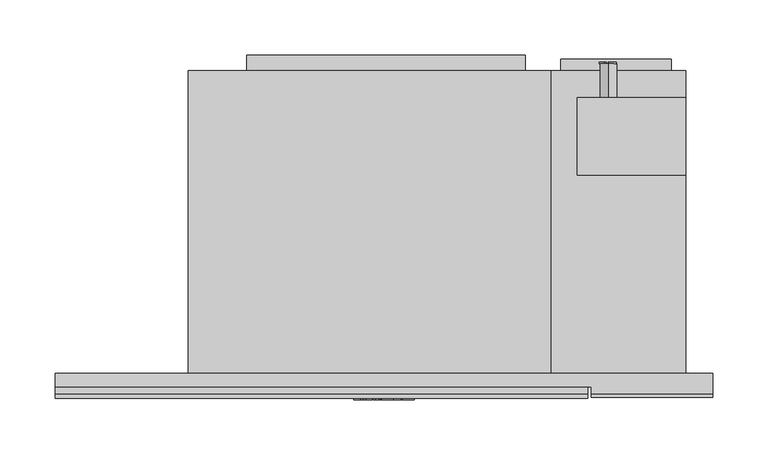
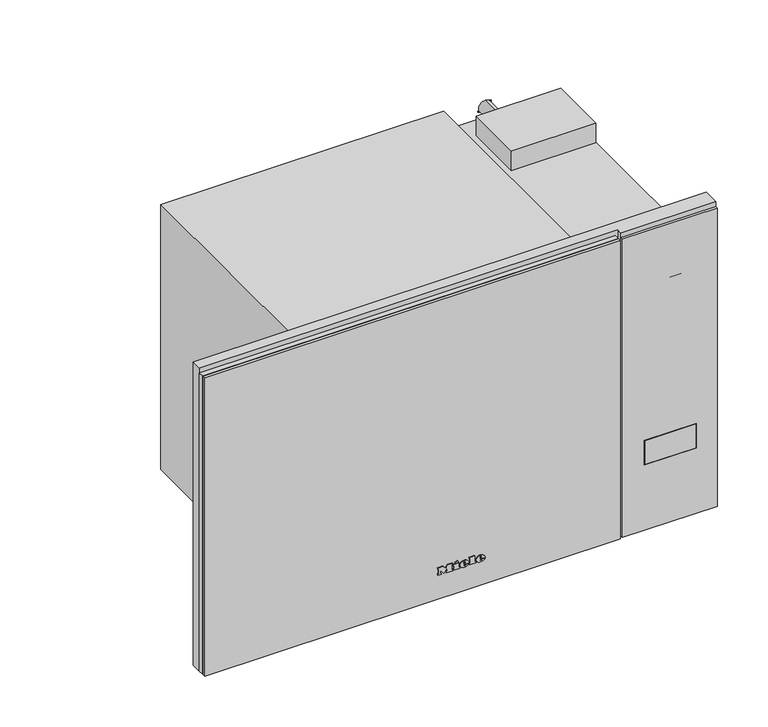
"""IFC4 building model written with IfcOpenShell, lengths in millimetres: proxy geometry, 11114620_TR_M2230SC_OBSW : 24223020_TR_11114620_M2230SC_OBSW."""

from ifc_helpers import new_model, si_unit, point, frame, frame_2d, origin, origin_with_axes, place, context, project, spatial, polyline, circle_curve, ellipse_curve, trimmed, segment, composite_curve, outline, extrude, faceted_brep, source, transform, mapped, element, save
from ifc_brep_helpers import plane_surface, cylinder_surface, revolved_surface, extruded_surface, advanced_brep


def specialty_equipment_3d04ccbc(model_context):
    return source(origin(), model_context, "Body", "SolidModel", [
        advanced_brep(
        [(21.28, -24.0, 16.633), (21.28, -24.0, 17.542), (27.301, -24.0, 17.542), (16.825, -24.0, 17.542), (19.3, -24.0, 14.5), (27.148, -24.0, 16.633), (24.43, -24.0, 16.633), (22.288, -24.0, 15.625), (21.28, -24.0, 18.694), (21.28, -24.0, 19.675), (22.819, -24.0, 19.675), (22.819, -24.0, 18.694), (21.28, -23.0, 16.633), (22.288, -23.0, 15.625), (24.43, -23.0, 16.633), (27.148, -23.0, 16.633), (19.3, -23.0, 14.5), (16.825, -23.0, 17.542), (27.301, -23.0, 17.542), (21.28, -23.0, 17.542), (21.28, -23.0, 18.694), (22.819, -23.0, 18.694), (22.819, -23.0, 19.675), (21.28, -23.0, 19.675)],
        [
            (0, 1),
            (1, 2),
            (2, 3, ellipse_curve(frame((22.063, -24.0, 17.542), z_axis=(0.0, -1.0, 0.0), x_axis=(-1.0, 0.0, 0.0)), 5.238, 4.329)),
            (3, 4, circle_curve(frame((20.3080491, -24.0, 17.848), z_axis=(0.0, -1.0, 0.0), x_axis=(0.0, 0.0, -1.0)), 3.4964649)),
            (4, 5, circle_curve(frame((21.9581428, -24.0, 20.224), z_axis=(0.0, -1.0, 0.0), x_axis=(0.0, 0.0, -1.0)), 6.3110933)),
            (5, 6),
            (6, 7, circle_curve(frame((22.7279412, -24.0, 17.47), z_axis=(0.0, 1.0, 0.0), x_axis=(0.0, 0.0, -1.0)), 1.896727)),
            (7, 0, circle_curve(frame((22.288, -24.0, 16.633), z_axis=(0.0, 1.0, 0.0), x_axis=(0.0, 0.0, -1.0)), 1.008)),
            (8, 9),
            (9, 10, circle_curve(frame((22.0495, -24.0, 19.675), z_axis=(0.0, 1.0, 0.0), x_axis=(0.0, 0.0, -1.0)), 0.7695)),
            (10, 11),
            (11, 8),
            (12, 13, circle_curve(frame((22.288, -23.0, 16.633), z_axis=(0.0, -1.0, 0.0), x_axis=(0.0, 0.0, -1.0)), 1.008)),
            (13, 14, circle_curve(frame((22.7279412, -23.0, 17.47), z_axis=(0.0, -1.0, 0.0), x_axis=(0.0, 0.0, -1.0)), 1.896727)),
            (14, 15),
            (15, 16, circle_curve(frame((21.9581428, -23.0, 20.224), z_axis=(0.0, 1.0, 0.0), x_axis=(0.0, 0.0, -1.0)), 6.3110933)),
            (16, 17, circle_curve(frame((20.3080491, -23.0, 17.848), z_axis=(0.0, 1.0, 0.0), x_axis=(0.0, 0.0, -1.0)), 3.4964649)),
            (17, 18, ellipse_curve(frame((22.063, -23.0, 17.542), z_axis=(0.0, 1.0, 0.0), x_axis=(-1.0, 0.0, 0.0)), 5.238, 4.329)),
            (18, 19),
            (19, 12),
            (20, 21),
            (21, 22),
            (22, 23, circle_curve(frame((22.0495, -23.0, 19.675), z_axis=(0.0, -1.0, 0.0), x_axis=(0.0, 0.0, -1.0)), 0.7695)),
            (23, 20),
            (0, 12),
            (19, 1),
            (18, 2),
            (5, 15),
            (14, 6),
            (17, 3),
            (13, 7),
            (16, 4),
            (8, 20),
            (23, 9),
            (22, 10),
            (21, 11),
        ],
        [
            plane_surface(frame((21.28, -24.0, 17.542), z_axis=(0.0, -1.0, 0.0), x_axis=(0.0, 0.0, 1.0))),
            plane_surface(frame((21.28, -23.0, 17.542), z_axis=(0.0, 1.0, 0.0), x_axis=(0.0, 0.0, -1.0))),
            plane_surface(frame((21.28, -24.0, 16.633), z_axis=(1.0, 0.0, 0.0), x_axis=(0.0, 1.0, 0.0))),
            plane_surface(frame((21.28, -24.0, 17.542), z_axis=(0.0, 0.0, -1.0), x_axis=(0.0, 1.0, 0.0))),
            plane_surface(frame((27.148, -24.0, 16.633), z_axis=(0.0, 0.0, 1.0), x_axis=(0.0, 1.0, 0.0))),
            extruded_surface(trimmed(ellipse_curve(frame((22.063, -22.0, 17.542), z_axis=(0.0, -1.0, 0.0), x_axis=(-1.0, 0.0, 0.0)), 5.238, 4.329), [point((27.301, -22.0, 17.542))], [point((16.825, -22.0, 17.542))], True, "CARTESIAN"), (0.0, -1.0, 0.0), 1.0),
            revolved_surface(polyline([(22.7279412, -23.0, 15.573272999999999), (22.7279412, -24.0, 15.573272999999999)]), (22.7279412, -23.0, 17.47), (0.0, 1.0, 0.0)),
            revolved_surface(polyline([(22.288, -23.0, 15.625), (22.288, -24.0, 15.625)]), (22.288, -23.0, 16.633), (0.0, 1.0, 0.0)),
            cylinder_surface(frame((20.3080491, -23.0, 17.848), z_axis=(0.0, -1.0, 0.0), x_axis=(0.0, 0.0, -1.0)), 3.4964649),
            cylinder_surface(frame((21.9581428, -23.0, 20.224), z_axis=(0.0, -1.0, 0.0), x_axis=(0.0, 0.0, -1.0)), 6.3110933),
            plane_surface(frame((21.28, -24.0, 18.694), z_axis=(1.0, 0.0, 0.0), x_axis=(0.0, 1.0, 0.0))),
            revolved_surface(polyline([(22.0495, -23.0, 18.9055), (22.0495, -24.0, 18.9055)]), (22.0495, -23.0, 19.675), (0.0, 1.0, 0.0)),
            plane_surface(frame((22.819, -24.0, 19.675), z_axis=(-1.0, 0.0, 0.0), x_axis=(0.0, 1.0, 0.0))),
            plane_surface(frame((22.819, -24.0, 18.694), z_axis=(0.0, 0.0, 1.0), x_axis=(0.0, 1.0, 0.0))),
        ],
        [
            (0, [[1, 2, 3, 4, 5, 6, 7, 8], [9, 10, 11, 12]]),
            (1, [[13, 14, 15, 16, 17, 18, 19, 20], [21, 22, 23, 24]]),
            (2, [[-1, 25, -20, 26]]),
            (3, [[-2, -26, -19, 27]]),
            (4, [[-6, 28, -15, 29]]),
            (5, [[-3, -27, -18, 30]]),
            (6, [[-7, -29, -14, 31]]),
            (7, [[-8, -31, -13, -25]]),
            (8, [[-4, -30, -17, 32]]),
            (9, [[-5, -32, -16, -28]]),
            (10, [[-9, 33, -24, 34]]),
            (11, [[-10, -34, -23, 35]]),
            (12, [[-11, -35, -22, 36]]),
            (13, [[-12, -36, -21, -33]]),
        ],
    ),
        advanced_brep(
        [(2.497, -24.0, 16.633), (2.497, -24.0, 17.542), (8.518, -24.0, 17.542), (-1.958, -24.0, 17.542), (0.517, -24.0, 14.5), (8.365, -24.0, 16.633), (5.647, -24.0, 16.633), (3.505, -24.0, 15.625), (2.497, -24.0, 18.694), (2.497, -24.0, 19.675), (4.036, -24.0, 19.675), (4.036, -24.0, 18.694), (2.497, -23.0, 16.633), (3.505, -23.0, 15.625), (5.647, -23.0, 16.633), (8.365, -23.0, 16.633), (0.517, -23.0, 14.5), (-1.958, -23.0, 17.542), (8.518, -23.0, 17.542), (2.497, -23.0, 17.542), (2.497, -23.0, 18.694), (4.036, -23.0, 18.694), (4.036, -23.0, 19.675), (2.497, -23.0, 19.675)],
        [
            (0, 1),
            (1, 2),
            (2, 3, ellipse_curve(frame((3.28, -24.0, 17.542), z_axis=(0.0, -1.0, 0.0), x_axis=(-1.0, 0.0, 0.0)), 5.238, 4.329)),
            (3, 4, circle_curve(frame((1.5250491, -24.0, 17.848), z_axis=(0.0, -1.0, 0.0), x_axis=(0.0, 0.0, -1.0)), 3.4964649)),
            (4, 5, circle_curve(frame((3.1751428, -24.0, 20.224), z_axis=(0.0, -1.0, 0.0), x_axis=(0.0, 0.0, -1.0)), 6.3110933)),
            (5, 6),
            (6, 7, circle_curve(frame((3.9449412, -24.0, 17.47), z_axis=(0.0, 1.0, 0.0), x_axis=(0.0, 0.0, -1.0)), 1.896727)),
            (7, 0, circle_curve(frame((3.505, -24.0, 16.633), z_axis=(0.0, 1.0, 0.0), x_axis=(0.0, 0.0, -1.0)), 1.008)),
            (8, 9),
            (9, 10, circle_curve(frame((3.2665, -24.0, 19.675), z_axis=(0.0, 1.0, 0.0), x_axis=(0.0, 0.0, -1.0)), 0.7695)),
            (10, 11),
            (11, 8),
            (12, 13, circle_curve(frame((3.505, -23.0, 16.633), z_axis=(0.0, -1.0, 0.0), x_axis=(0.0, 0.0, -1.0)), 1.008)),
            (13, 14, circle_curve(frame((3.9449412, -23.0, 17.47), z_axis=(0.0, -1.0, 0.0), x_axis=(0.0, 0.0, -1.0)), 1.896727)),
            (14, 15),
            (15, 16, circle_curve(frame((3.1751428, -23.0, 20.224), z_axis=(0.0, 1.0, 0.0), x_axis=(0.0, 0.0, -1.0)), 6.3110933)),
            (16, 17, circle_curve(frame((1.5250491, -23.0, 17.848), z_axis=(0.0, 1.0, 0.0), x_axis=(0.0, 0.0, -1.0)), 3.4964649)),
            (17, 18, ellipse_curve(frame((3.28, -23.0, 17.542), z_axis=(0.0, 1.0, 0.0), x_axis=(-1.0, 0.0, 0.0)), 5.238, 4.329)),
            (18, 19),
            (19, 12),
            (20, 21),
            (21, 22),
            (22, 23, circle_curve(frame((3.2665, -23.0, 19.675), z_axis=(0.0, -1.0, 0.0), x_axis=(0.0, 0.0, -1.0)), 0.7695)),
            (23, 20),
            (0, 12),
            (19, 1),
            (18, 2),
            (5, 15),
            (14, 6),
            (17, 3),
            (13, 7),
            (16, 4),
            (8, 20),
            (23, 9),
            (22, 10),
            (21, 11),
        ],
        [
            plane_surface(frame((2.497, -24.0, 17.542), z_axis=(0.0, -1.0, 0.0), x_axis=(0.0, 0.0, 1.0))),
            plane_surface(frame((2.497, -23.0, 17.542), z_axis=(0.0, 1.0, 0.0), x_axis=(0.0, 0.0, -1.0))),
            plane_surface(frame((2.497, -24.0, 16.633), z_axis=(1.0, 0.0, 0.0), x_axis=(0.0, 1.0, 0.0))),
            plane_surface(frame((2.497, -24.0, 17.542), z_axis=(0.0, 0.0, -1.0), x_axis=(0.0, 1.0, 0.0))),
            plane_surface(frame((8.365, -24.0, 16.633), z_axis=(0.0, 0.0, 1.0), x_axis=(0.0, 1.0, 0.0))),
            extruded_surface(trimmed(ellipse_curve(frame((3.28, -22.0, 17.542), z_axis=(0.0, -1.0, 0.0), x_axis=(-1.0, 0.0, 0.0)), 5.238, 4.329), [point((8.518, -22.0, 17.542))], [point((-1.958, -22.0, 17.542))], True, "CARTESIAN"), (0.0, -1.0, 0.0), 1.0),
            revolved_surface(polyline([(3.9449412, -23.0, 15.573272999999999), (3.9449412, -24.0, 15.573272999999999)]), (3.9449412, -23.0, 17.47), (0.0, 1.0, 0.0)),
            revolved_surface(polyline([(3.505, -23.0, 15.625), (3.505, -24.0, 15.625)]), (3.505, -23.0, 16.633), (0.0, 1.0, 0.0)),
            cylinder_surface(frame((1.5250491, -23.0, 17.848), z_axis=(0.0, -1.0, 0.0), x_axis=(0.0, 0.0, -1.0)), 3.4964649),
            cylinder_surface(frame((3.1751428, -23.0, 20.224), z_axis=(0.0, -1.0, 0.0), x_axis=(0.0, 0.0, -1.0)), 6.3110933),
            plane_surface(frame((2.497, -24.0, 18.694), z_axis=(1.0, 0.0, 0.0), x_axis=(0.0, 1.0, 0.0))),
            revolved_surface(polyline([(3.2665, -23.0, 18.9055), (3.2665, -24.0, 18.9055)]), (3.2665, -23.0, 19.675), (0.0, 1.0, 0.0)),
            plane_surface(frame((4.036, -24.0, 19.675), z_axis=(-1.0, 0.0, 0.0), x_axis=(0.0, 1.0, 0.0))),
            plane_surface(frame((4.036, -24.0, 18.694), z_axis=(0.0, 0.0, 1.0), x_axis=(0.0, 1.0, 0.0))),
        ],
        [
            (0, [[1, 2, 3, 4, 5, 6, 7, 8], [9, 10, 11, 12]]),
            (1, [[13, 14, 15, 16, 17, 18, 19, 20], [21, 22, 23, 24]]),
            (2, [[-1, 25, -20, 26]]),
            (3, [[-2, -26, -19, 27]]),
            (4, [[-6, 28, -15, 29]]),
            (5, [[-3, -27, -18, 30]]),
            (6, [[-7, -29, -14, 31]]),
            (7, [[-8, -31, -13, -25]]),
            (8, [[-4, -30, -17, 32]]),
            (9, [[-5, -32, -16, -28]]),
            (10, [[-9, 33, -24, 34]]),
            (11, [[-10, -34, -23, 35]]),
            (12, [[-11, -35, -22, 36]]),
            (13, [[-12, -36, -21, -33]]),
        ],
    ),
        extrude(outline(polyline([(22.969, -7.34), (21.511, -6.656), (22.933, -3.605), (24.391, -4.28), (22.969, -7.34)])), frame((0.0, -24.0, 0.0), z_axis=(0.0, 1.0, 0.0), x_axis=(0.0, 0.0, 1.0)), (0.0, 0.0, 1.0), 1.0),
        extrude(outline(polyline([(21.313, -9.563), (19.702, -9.563), (19.702, -8.492), (16.012, -8.492), (16.012, -9.563), (14.5, -9.563), (14.5, -2.462), (16.012, -2.462), (16.012, -3.506), (21.313, -3.506), (21.313, -9.563)])), frame((0.0, -24.0, 0.0), z_axis=(0.0, 1.0, 0.0), x_axis=(0.0, 0.0, 1.0)), (0.0, 0.0, 1.0), 1.0),
        extrude(outline(polyline([(22.033, 9.022), (22.033, 10.102), (16.012, 10.102), (16.012, 9.022), (14.5, 9.022), (14.5, 16.321), (16.012, 16.321), (16.012, 15.214), (23.5, 15.214), (23.5, 9.022), (22.033, 9.022)])), frame((0.0, -24.0, 0.0), z_axis=(0.0, 1.0, 0.0), x_axis=(0.0, 0.0, 1.0)), (0.0, 0.0, 1.0), 1.0),
        extrude(outline(polyline([(22.033, -27.5), (22.033, -26.411), (16.012, -26.411), (16.012, -27.5), (14.5, -27.5), (14.5, -23.54), (16.012, -23.54), (16.012, -24.62), (19.8341247, -24.62), (14.5, -20.597), (19.9402223, -16.556), (16.012, -16.556), (16.012, -17.663), (14.5, -17.663), (14.5, -10.481), (16.012, -10.481), (16.012, -11.624), (22.033, -11.624), (22.033, -10.481), (23.5, -10.481), (23.5, -15.962), (20.125, -18.59), (23.5, -21.227), (23.5, -27.5), (22.033, -27.5)])), frame((0.0, -24.0, 0.0), z_axis=(0.0, 1.0, 0.0), x_axis=(0.0, 0.0, 1.0)), (0.0, 0.0, 1.0), 1.0),
        extrude(outline(polyline([(213.5, -19.0), (272.5, -19.0), (272.5, -22.0), (213.5, -22.0), (213.5, -19.0)])), frame((0.0, 0.0, 65.0), z_axis=(0.0, 0.0, 1.0), x_axis=(1.0, 0.0, 0.0)), (0.0, 0.0, 1.0), 29.0),
        extrude(outline(polyline([(350.5, 297.5), (350.5, 187.5), (-15.5, 187.5), (-15.5, 297.5), (350.5, 297.5)]), holes=[polyline([(94.5, 273.0), (64.5, 273.0), (64.5, 213.0), (94.5, 213.0), (94.5, 273.0)])]), frame((0.0, -22.0, 0.0), z_axis=(0.0, 1.0, 0.0), x_axis=(0.0, 0.0, 1.0)), (0.0, 0.0, 1.0), 3.0),
        extrude(outline(polyline([(213.0, -21.8), (271.0, -21.8), (271.0, -22.1), (213.0, -22.1), (213.0, -21.8)])), frame((0.0, 0.0, 260.0), z_axis=(0.0, 0.0, 1.0), x_axis=(1.0, 0.0, 0.0)), (0.0, 0.0, 1.0), 25.0),
        extrude(outline(polyline([(350.5, -297.5), (-15.5, -297.5), (-15.5, 184.5), (350.5, 184.5), (350.5, -297.5)]), holes=[polyline([(293.5, -165.0), (293.5, 180.0), (41.5, 180.0), (41.5, -165.0), (293.5, -165.0)])]), frame((0.0, -19.0, 0.0), z_axis=(0.0, 1.0, 0.0), x_axis=(0.0, 0.0, 1.0)), (0.0, 0.0, 1.0), 6.5),
        extrude(outline(polyline([(-165.0, 7.0), (180.0, 7.0), (180.0, -19.0), (-165.0, -19.0), (-165.0, 7.0)])), frame((0.0, 0.0, 41.5), z_axis=(0.0, 0.0, 1.0), x_axis=(1.0, 0.0, 0.0)), (0.0, 0.0, 1.0), 252.0),
        extrude(outline(polyline([(-297.5, -19.0), (184.5, -19.0), (184.5, -23.0), (-297.5, -23.0), (-297.5, -19.0)])), frame((0.0, 0.0, -15.5), z_axis=(0.0, 0.0, 1.0), x_axis=(1.0, 0.0, 0.0)), (0.0, 0.0, 1.0), 366.0),
        extrude(outline(polyline([(329.5536781, 203.1660444), (328.2952065, 203.1660444), (328.2952065, 209.1269959), (325.3028248, 209.1269959), (325.3028248, 203.4835385), (324.0487231, 203.4835385), (324.0487231, 209.1269959), (320.7630117, 209.1269959), (320.7630117, 203.0), (319.5, 203.0), (319.5, 210.3757838), (329.5536781, 210.3757838), (329.5536781, 203.1660444)])), frame((0.0, 280.5, 0.0), z_axis=(0.0, 1.0, 0.0), x_axis=(0.0, 0.0, 1.0)), (0.0, 0.0, 1.0), 1.0),
        extrude(outline(polyline([(329.5536781, 199.8530432), (320.7543004, 199.8530432), (320.7543004, 194.8378502), (319.5, 194.8378502), (319.5, 201.1246692), (329.5536781, 201.1246692), (329.5536781, 199.8530432)])), frame((0.0, 280.5, 0.0), z_axis=(0.0, 1.0, 0.0), x_axis=(0.0, 0.0, 1.0)), (0.0, 0.0, 1.0), 1.0),
        extrude(outline(composite_curve([segment(trimmed(circle_curve(frame_2d((324.5, 203.0)), 7.5), [point((317.0, 203.0))], [point((332.0, 203.0))], False, "CARTESIAN"), True, "CONTINUOUS"), segment(trimmed(circle_curve(frame_2d((324.5, 203.0)), 7.5), [point((332.0, 203.0))], [point((317.0, 203.0))], False, "CARTESIAN"), True, "CONTINUOUS")], self_intersect=False)), frame((0.0, 249.5, 0.0), z_axis=(0.0, 1.0, 0.0), x_axis=(0.0, 0.0, 1.0)), (0.0, 0.0, 1.0), 31.0),
        extrude(outline(polyline([(70.0, 176.0), (70.0, 96.0), (-10.0, 96.0), (-10.0, 176.0), (70.0, 176.0)])), frame((0.0, 0.0, 4.0), z_axis=(0.0, 0.0, 1.0), x_axis=(1.0, 0.0, 0.0)), (0.0, 0.0, 1.0), 12.0),
        extrude(outline(polyline([(-114.0, 235.25), (-114.0, 222.75), (-142.0, 222.75), (-142.0, 235.25), (-114.0, 235.25)])), origin_with_axes(), (0.0, 0.0, 1.0), 12.0),
        extrude(outline(polyline([(235.0, 235.25), (235.0, 222.75), (207.0, 222.75), (207.0, 235.25), (235.0, 235.25)])), origin_with_axes(), (0.0, 0.0, 1.0), 12.0),
        extrude(outline(polyline([(235.0, 55.25), (235.0, 42.75), (207.0, 42.75), (207.0, 55.25), (235.0, 55.25)])), origin_with_axes(), (0.0, 0.0, 1.0), 12.0),
        extrude(outline(polyline([(-114.0, 55.25), (-114.0, 42.75), (-142.0, 42.75), (-142.0, 55.25), (-114.0, 55.25)])), origin_with_axes(), (0.0, 0.0, 1.0), 12.0),
        extrude(outline(composite_curve([segment(trimmed(circle_curve(frame_2d((-128.0, 229.0)), 18.5), [point((-109.5, 229.0))], [point((-146.5, 229.0))], False, "CARTESIAN"), True, "CONTINUOUS"), segment(trimmed(circle_curve(frame_2d((-128.0, 229.0)), 18.5), [point((-146.5, 229.0))], [point((-109.5, 229.0))], False, "CARTESIAN"), True, "CONTINUOUS")], self_intersect=False)), frame((0.0, 0.0, 12.0), z_axis=(0.0, 0.0, 1.0), x_axis=(1.0, 0.0, 0.0)), (0.0, 0.0, 1.0), 4.0),
        extrude(outline(composite_curve([segment(trimmed(circle_curve(frame_2d((221.0, 229.0)), 18.5), [point((239.5, 229.0))], [point((202.5, 229.0))], False, "CARTESIAN"), True, "CONTINUOUS"), segment(trimmed(circle_curve(frame_2d((221.0, 229.0)), 18.5), [point((202.5, 229.0))], [point((239.5, 229.0))], False, "CARTESIAN"), True, "CONTINUOUS")], self_intersect=False)), frame((0.0, 0.0, 12.0), z_axis=(0.0, 0.0, 1.0), x_axis=(1.0, 0.0, 0.0)), (0.0, 0.0, 1.0), 4.0),
        extrude(outline(composite_curve([segment(trimmed(circle_curve(frame_2d((-128.0, 49.0)), 18.5), [point((-109.5, 49.0))], [point((-146.5, 49.0))], False, "CARTESIAN"), True, "CONTINUOUS"), segment(trimmed(circle_curve(frame_2d((-128.0, 49.0)), 18.5), [point((-146.5, 49.0))], [point((-109.5, 49.0))], False, "CARTESIAN"), True, "CONTINUOUS")], self_intersect=False)), frame((0.0, 0.0, 12.0), z_axis=(0.0, 0.0, 1.0), x_axis=(1.0, 0.0, 0.0)), (0.0, 0.0, 1.0), 4.0),
        extrude(outline(composite_curve([segment(trimmed(circle_curve(frame_2d((221.0, 49.0)), 18.5), [point((239.5, 49.0))], [point((202.5, 49.0))], False, "CARTESIAN"), True, "CONTINUOUS"), segment(trimmed(circle_curve(frame_2d((221.0, 49.0)), 18.5), [point((202.5, 49.0))], [point((239.5, 49.0))], False, "CARTESIAN"), True, "CONTINUOUS")], self_intersect=False)), frame((0.0, 0.0, 12.0), z_axis=(0.0, 0.0, 1.0), x_axis=(1.0, 0.0, 0.0)), (0.0, 0.0, 1.0), 4.0),
        extrude(outline(polyline([(160.0, 284.5), (260.0, 284.5), (260.0, 274.0), (160.0, 274.0), (160.0, 284.5)])), frame((0.0, 0.0, 52.0), z_axis=(0.0, 0.0, 1.0), x_axis=(1.0, 0.0, 0.0)), (0.0, 0.0, 1.0), 245.0),
        extrude(outline(polyline([(-124.0, 288.0), (128.0, 288.0), (128.0, 274.0), (-124.0, 274.0), (-124.0, 288.0)])), frame((0.0, 0.0, 71.0), z_axis=(0.0, 0.0, 1.0), x_axis=(1.0, 0.0, 0.0)), (0.0, 0.0, 1.0), 183.0),
        extrude(outline(polyline([(175.0, 249.5), (273.0, 249.5), (273.0, 179.5), (175.0, 179.5), (175.0, 249.5)])), frame((0.0, 0.0, 317.0), z_axis=(0.0, 0.0, 1.0), x_axis=(1.0, 0.0, 0.0)), (0.0, 0.0, 1.0), 24.0),
        faceted_brep([(273.0, 274.0, 16.0), (-177.0, 274.0, 16.0), (-177.0, 274.0, 341.0), (151.0, 274.0, 341.0), (151.0, 274.0, 317.0), (273.0, 274.0, 317.0), (-177.0, 0.0, 341.0), (-177.0, 0.0, 16.0), (273.0, 0.0, 16.0), (273.0, 0.0, 317.0), (151.0, 0.0, 317.0), (151.0, 0.0, 341.0), (183.0, 0.0, 307.5), (183.0, 0.0, 31.5), (-170.0, 0.0, 31.5), (-170.0, 0.0, 307.5), (183.0, 2.0, 307.5), (-170.0, 2.0, 307.5), (-170.0, 2.0, 31.5), (183.0, 2.0, 31.5), (144.0, 2.0, 268.5), (144.0, 2.0, 65.5), (-141.0, 2.0, 65.5), (-141.0, 2.0, 268.5), (144.0, 266.0, 268.5), (-141.0, 266.0, 268.5), (-141.0, 266.0, 65.5), (144.0, 266.0, 65.5)], [[[0, 1, 2, 3, 4, 5]], [[6, 7, 8, 9, 10, 11], [12, 13, 14, 15]], [[2, 6, 11, 3]], [[2, 1, 7, 6]], [[1, 0, 8, 7]], [[8, 0, 5, 9]], [[4, 10, 9, 5]], [[10, 4, 3, 11]], [[16, 17, 18, 19], [20, 21, 22, 23]], [[16, 19, 13, 12]], [[19, 18, 14, 13]], [[17, 16, 12, 15]], [[24, 25, 26, 27]], [[24, 27, 21, 20]], [[27, 26, 22, 21]], [[26, 25, 23, 22]], [[25, 24, 20, 23]], [[18, 17, 15, 14]]]),
        faceted_brep([(183.0, 0.0, 307.5), (183.0, 0.0, 31.5), (183.0, -12.5, 31.5), (183.0, -12.5, 307.5), (-170.0, 0.0, 31.5), (-170.0, -12.5, 31.5), (-170.0, 0.0, 307.5), (-170.0, -12.5, 307.5), (297.5, -19.0, -15.5), (297.5, -19.0, 356.5), (187.5, -19.0, 356.5), (187.5, -19.0, -15.5), (297.5, 0.0, 356.5), (297.5, 0.0, -15.5), (-297.5, 0.0, -15.5), (-297.5, 0.0, 356.5), (-297.5, -12.5, 356.5), (187.5, -12.5, 356.5), (-297.5, -12.5, -15.5), (187.5, -12.5, -15.5)], [[[0, 1, 2, 3]], [[1, 4, 5, 2]], [[4, 6, 7, 5]], [[6, 0, 3, 7]], [[8, 9, 10, 11]], [[12, 13, 14, 15], [1, 0, 6, 4]], [[12, 15, 16, 17, 10, 9]], [[15, 14, 18, 16]], [[14, 13, 8, 11, 19, 18]], [[9, 8, 13, 12]], [[19, 17, 16, 18], [3, 2, 5, 7]], [[17, 19, 11, 10]]]),
    ])


if __name__ == "__main__":
    model = new_model("IFC4")
    model_context = context("Model", 3, world=origin())
    ifc_project = project(units=[si_unit("LENGTHUNIT", "METRE", prefix="MILLI")], contexts=[model_context])
    site = spatial("IfcSite", under=ifc_project)
    building = spatial("IfcBuilding", under=site)
    placement = place(None, origin())
    specialty_equipment_shape = specialty_equipment_3d04ccbc(model_context)
    element("IfcBuildingElementProxy", 1, Name="11114620_TR_M2230SC_OBSW : 24223020_TR_11114620_M2230SC_OBSW", ObjectType="11114620_TR_M2230SC_OBSW : 24223020_TR_11114620_M2230SC_OBSW", at=placement, inside=building, context=model_context, shape_type="MappedRepresentation", body=[
        mapped(specialty_equipment_shape, transform((0.0, 0.0, 0.0), x_axis=(1.0, 0.0, 0.0), y_axis=(0.0, 1.0, 0.0), z_axis=(0.0, 0.0, 1.0))),
    ])
    save(model, "model.ifc")
